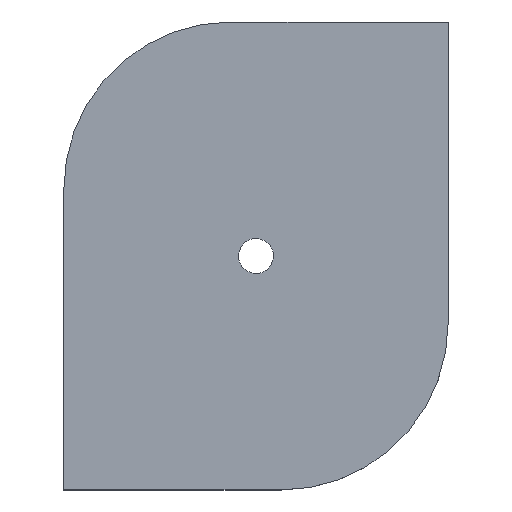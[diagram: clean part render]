
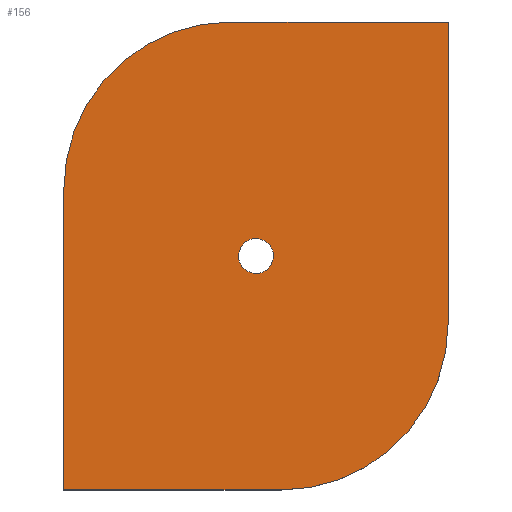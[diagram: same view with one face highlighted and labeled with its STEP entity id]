
A CAD part, top view. The second image highlights one B-rep face of the part: STEP entity #156.
In plain terms, the highlighted planar face has unit normal (0, 0, 1).
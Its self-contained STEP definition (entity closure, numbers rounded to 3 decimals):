
#63=CARTESIAN_POINT('Vertex',(42.325,58.008,7.)) ;
#77=CARTESIAN_POINT('Vertex',(49.675,53.992,7.)) ;
#80=CARTESIAN_POINT('Axis2P3D Location',(46.,56.,7.)) ;
#92=CARTESIAN_POINT('Axis2P3D Location',(0.,0.,7.)) ;
#97=CARTESIAN_POINT('Line Origine',(0.,36.,7.)) ;
#101=CARTESIAN_POINT('Vertex',(0.,72.,7.)) ;
#103=CARTESIAN_POINT('Vertex',(0.,0.,7.)) ;
#106=CARTESIAN_POINT('Line Origine',(26.,0.,7.)) ;
#110=CARTESIAN_POINT('Vertex',(52.,0.,7.)) ;
#113=CARTESIAN_POINT('Axis2P3D Location',(52.,40.,7.)) ;
#117=CARTESIAN_POINT('Vertex',(92.,40.,7.)) ;
#120=CARTESIAN_POINT('Line Origine',(92.,76.,7.)) ;
#124=CARTESIAN_POINT('Vertex',(92.,112.,7.)) ;
#127=CARTESIAN_POINT('Line Origine',(66.,112.,7.)) ;
#131=CARTESIAN_POINT('Vertex',(40.,112.,7.)) ;
#134=CARTESIAN_POINT('Axis2P3D Location',(40.,72.,7.)) ;
#147=CARTESIAN_POINT('Axis2P3D Location',(46.,56.,7.)) ;
#81=DIRECTION('Axis2P3D Direction',(0.,-0.,-1.)) ;
#93=DIRECTION('Axis2P3D Direction',(0.,0.,1.)) ;
#94=DIRECTION('Axis2P3D XDirection',(1.,0.,0.)) ;
#98=DIRECTION('Vector Direction',(0.,-1.,0.)) ;
#107=DIRECTION('Vector Direction',(1.,0.,0.)) ;
#114=DIRECTION('Axis2P3D Direction',(0.,0.,1.)) ;
#121=DIRECTION('Vector Direction',(0.,1.,0.)) ;
#128=DIRECTION('Vector Direction',(-1.,0.,0.)) ;
#135=DIRECTION('Axis2P3D Direction',(0.,0.,1.)) ;
#148=DIRECTION('Axis2P3D Direction',(0.,0.,1.)) ;
#82=AXIS2_PLACEMENT_3D('Circle Axis2P3D',#80,#81,$) ;
#95=AXIS2_PLACEMENT_3D('Plane Axis2P3D',#92,#93,#94) ;
#115=AXIS2_PLACEMENT_3D('Circle Axis2P3D',#113,#114,$) ;
#136=AXIS2_PLACEMENT_3D('Circle Axis2P3D',#134,#135,$) ;
#149=AXIS2_PLACEMENT_3D('Circle Axis2P3D',#147,#148,$) ;
#140=ORIENTED_EDGE('',*,*,#105,.T.) ;
#141=ORIENTED_EDGE('',*,*,#112,.T.) ;
#142=ORIENTED_EDGE('',*,*,#119,.F.) ;
#143=ORIENTED_EDGE('',*,*,#126,.T.) ;
#144=ORIENTED_EDGE('',*,*,#133,.T.) ;
#145=ORIENTED_EDGE('',*,*,#138,.F.) ;
#153=ORIENTED_EDGE('',*,*,#151,.F.) ;
#154=ORIENTED_EDGE('',*,*,#84,.F.) ;
#155=FACE_BOUND('',#152,.T.) ;
#99=VECTOR('Line Direction',#98,1.) ;
#108=VECTOR('Line Direction',#107,1.) ;
#122=VECTOR('Line Direction',#121,1.) ;
#129=VECTOR('Line Direction',#128,1.) ;
#156=ADVANCED_FACE('PartBody',(#146,#155),#96,.T.) ;
#83=CIRCLE('generated circle',#82,4.188) ;
#116=CIRCLE('generated circle',#115,40.) ;
#137=CIRCLE('generated circle',#136,40.) ;
#150=CIRCLE('generated circle',#149,4.188) ;
#84=EDGE_CURVE('',#78,#64,#83,.F.) ;
#105=EDGE_CURVE('',#102,#104,#100,.T.) ;
#112=EDGE_CURVE('',#104,#111,#109,.T.) ;
#119=EDGE_CURVE('',#118,#111,#116,.F.) ;
#126=EDGE_CURVE('',#118,#125,#123,.T.) ;
#133=EDGE_CURVE('',#125,#132,#130,.T.) ;
#138=EDGE_CURVE('',#102,#132,#137,.F.) ;
#151=EDGE_CURVE('',#64,#78,#150,.T.) ;
#139=EDGE_LOOP('',(#140,#141,#142,#143,#144,#145)) ;
#152=EDGE_LOOP('',(#153,#154)) ;
#146=FACE_OUTER_BOUND('',#139,.T.) ;
#100=LINE('Line',#97,#99) ;
#109=LINE('Line',#106,#108) ;
#123=LINE('Line',#120,#122) ;
#130=LINE('Line',#127,#129) ;
#96=PLANE('',#95) ;
#64=VERTEX_POINT('',#63) ;
#78=VERTEX_POINT('',#77) ;
#102=VERTEX_POINT('',#101) ;
#104=VERTEX_POINT('',#103) ;
#111=VERTEX_POINT('',#110) ;
#118=VERTEX_POINT('',#117) ;
#125=VERTEX_POINT('',#124) ;
#132=VERTEX_POINT('',#131) ;
